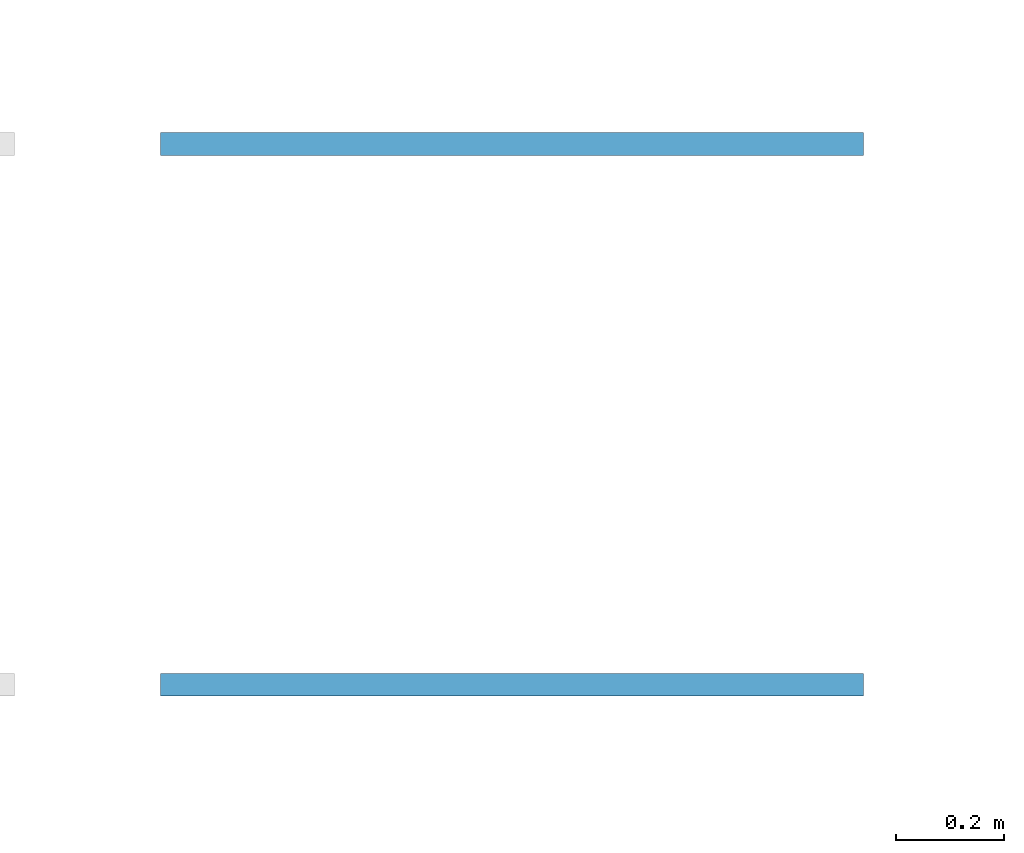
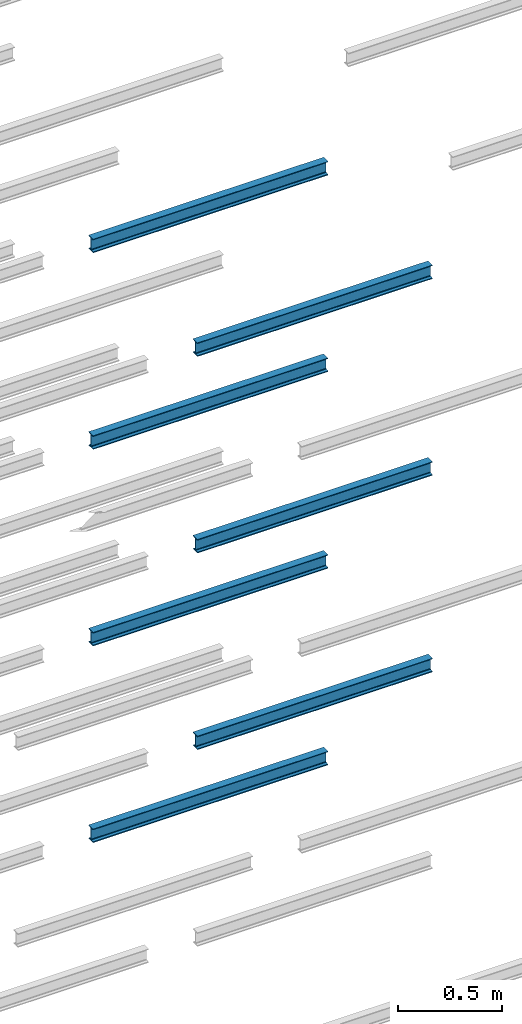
# One storey, part 97 of 290: 7 beams.
"""IFC2X3 building model written with IfcOpenShell, lengths in metres."""

from ifc_helpers import new_model, entity, si_unit, converted_unit, derived_unit, direction, frame, frame_2d, origin, place, context, subcontext, project, spatial, polyline, circle_curve, parameter, trimmed, segment, composite_curve, outline, extrude, material, type_object, element, save


model = new_model("IFC2X3")

# Units and contexts
model_context = context("Model", 3, precision=1e-05, world=origin(), true_north=direction((6.12303176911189e-17, 1.0)))
body_context = subcontext(model_context, "Body", "Model", "MODEL_VIEW")
ifc_project = project(units=[si_unit("LENGTHUNIT", "METRE"), si_unit("AREAUNIT", "SQUARE_METRE"), si_unit("VOLUMEUNIT", "CUBIC_METRE"), converted_unit("PLANEANGLEUNIT", "DEGREE", entity("IfcRatioMeasure", 0.0174532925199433), si_unit("PLANEANGLEUNIT", "RADIAN"), dimensions=[0, 0, 0, 0, 0, 0, 0]), si_unit("MASSUNIT", "GRAM", prefix="KILO"), derived_unit("MASSDENSITYUNIT", [(si_unit("MASSUNIT", "GRAM", prefix="KILO"), 1), (si_unit("LENGTHUNIT", "METRE"), -3)]), derived_unit("MOMENTOFINERTIAUNIT", [(si_unit("LENGTHUNIT", "METRE"), 4)]), si_unit("TIMEUNIT", "SECOND"), si_unit("FREQUENCYUNIT", "HERTZ"), si_unit("THERMODYNAMICTEMPERATUREUNIT", "DEGREE_CELSIUS"), derived_unit("THERMALTRANSMITTANCEUNIT", [(si_unit("MASSUNIT", "GRAM", prefix="KILO"), 1), (si_unit("THERMODYNAMICTEMPERATUREUNIT", "KELVIN"), -1), (si_unit("TIMEUNIT", "SECOND"), -3)]), derived_unit("VOLUMETRICFLOWRATEUNIT", [(si_unit("LENGTHUNIT", "METRE"), 3), (si_unit("TIMEUNIT", "SECOND"), -1)]), si_unit("ELECTRICCURRENTUNIT", "AMPERE"), si_unit("ELECTRICVOLTAGEUNIT", "VOLT"), si_unit("POWERUNIT", "WATT"), si_unit("FORCEUNIT", "NEWTON", prefix="KILO"), si_unit("ILLUMINANCEUNIT", "LUX"), si_unit("LUMINOUSFLUXUNIT", "LUMEN"), si_unit("LUMINOUSINTENSITYUNIT", "CANDELA"), derived_unit("USERDEFINED", [(si_unit("MASSUNIT", "GRAM", prefix="KILO"), -1), (si_unit("LENGTHUNIT", "METRE"), -2), (si_unit("TIMEUNIT", "SECOND"), 3), (si_unit("LUMINOUSFLUXUNIT", "LUMEN"), 1)]), derived_unit("LINEARVELOCITYUNIT", [(si_unit("LENGTHUNIT", "METRE"), 1), (si_unit("TIMEUNIT", "SECOND"), -1)]), si_unit("PRESSUREUNIT", "PASCAL"), derived_unit("USERDEFINED", [(si_unit("LENGTHUNIT", "METRE"), -2), (si_unit("MASSUNIT", "GRAM", prefix="KILO"), 1), (si_unit("TIMEUNIT", "SECOND"), -2)]), derived_unit("LINEARFORCEUNIT", [(si_unit("MASSUNIT", "GRAM", prefix="KILO"), 1), (si_unit("LENGTHUNIT", "METRE"), 1), (si_unit("TIMEUNIT", "SECOND"), -2), (si_unit("LENGTHUNIT", "METRE"), -1)]), derived_unit("PLANARFORCEUNIT", [(si_unit("MASSUNIT", "GRAM", prefix="KILO"), 1), (si_unit("LENGTHUNIT", "METRE"), 1), (si_unit("TIMEUNIT", "SECOND"), -2), (si_unit("LENGTHUNIT", "METRE"), -2)])], contexts=[model_context])

# Site, building, storey
site_placement = place(None, origin())
site = spatial("IfcSite", under=ifc_project, at=site_placement, Name="Default", CompositionType="ELEMENT")
building_placement = place(site_placement, origin())
building = spatial("IfcBuilding", under=site, at=building_placement, CompositionType="ELEMENT")
storey_placement = place(building_placement, frame((0.0, 0.0, 4.0)))
storey = spatial("IfcBuildingStorey", under=building, at=storey_placement, Name="01_OG", CompositionType="ELEMENT", Elevation=4.0)

# Beams
ifc_material = material(Name="Metall - Baustahl S235")
beam_type = type_object("IfcBeamType", Name="IPN Träger:IPN 80", PredefinedType="NOTDEFINED")
beam_1_placement = place(storey_placement, frame((-170.510111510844, 25.994588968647, -1.73)))
element("IfcBeam", 1, at=beam_1_placement, inside=storey, type_object=beam_type, material=ifc_material, Name="IPN Träger:IPN 80", ObjectType="IPN Träger:IPN 80", context=body_context, shape_type="SweptSolid", body=[
    extrude(outline(composite_curve([segment(polyline([(0.0375704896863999, -0.0209999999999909), (0.0399999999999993, -0.0209999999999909)]), True, "CONTINUOUS"), segment(polyline([(0.0399999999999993, -0.0209999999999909), (0.0399999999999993, 0.0210000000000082)]), True, "CONTINUOUS"), segment(polyline([(0.0399999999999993, 0.0210000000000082), (0.0375704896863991, 0.0210000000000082)]), True, "CONTINUOUS"), segment(trimmed(circle_curve(frame_2d((0.0375704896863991, 0.0187000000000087), x_axis=(0.0, 1.0)), 0.00230000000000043), [parameter(0.0)], [parameter(82.0299999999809)], True, "PARAMETER"), True, "CONTINUOUS"), segment(polyline([(0.0352927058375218, 0.0190189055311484), (0.0333732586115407, 0.00530924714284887)]), True, "CONTINUOUS"), segment(trimmed(circle_curve(frame_2d((0.0295109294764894, 0.00585000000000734), x_axis=(0.990340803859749, -0.138654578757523)), 0.00389999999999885), [parameter(277.969999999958)], [parameter(0.0)], True, "PARAMETER"), False, "CONTINUOUS"), segment(polyline([(0.0295109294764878, 0.00195000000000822), (-0.0295109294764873, 0.00195000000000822)]), True, "CONTINUOUS"), segment(trimmed(circle_curve(frame_2d((-0.0295109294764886, 0.00585000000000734), x_axis=(0.0, -1.0)), 0.00389999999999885), [parameter(277.969999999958)], [parameter(0.0)], True, "PARAMETER"), False, "CONTINUOUS"), segment(polyline([(-0.0333732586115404, 0.0053092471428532), (-0.0352927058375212, 0.0190189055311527)]), True, "CONTINUOUS"), segment(trimmed(circle_curve(frame_2d((-0.0375704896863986, 0.0187000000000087), x_axis=(0.990340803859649, 0.138654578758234)), 0.00230000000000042), [parameter(0.0)], [parameter(82.0299999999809)], True, "PARAMETER"), True, "CONTINUOUS"), segment(polyline([(-0.0375704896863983, 0.0210000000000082), (-0.0400000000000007, 0.0210000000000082)]), True, "CONTINUOUS"), segment(polyline([(-0.0400000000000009, 0.0210000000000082), (-0.0400000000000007, -0.0209999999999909)]), True, "CONTINUOUS"), segment(polyline([(-0.0400000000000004, -0.0209999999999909), (-0.0375704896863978, -0.0209999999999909)]), True, "CONTINUOUS"), segment(trimmed(circle_curve(frame_2d((-0.0375704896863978, -0.0186999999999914), x_axis=(0.0, -1.0)), 0.00230000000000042), [parameter(0.0)], [parameter(82.0299999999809)], True, "PARAMETER"), True, "CONTINUOUS"), segment(polyline([(-0.0352927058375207, -0.019018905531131), (-0.0333732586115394, -0.00530924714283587)]), True, "CONTINUOUS"), segment(trimmed(circle_curve(frame_2d((-0.0295109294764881, -0.00584999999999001), x_axis=(-0.990340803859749, 0.138654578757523)), 0.00389999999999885), [parameter(277.969999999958)], [parameter(0.0)], True, "PARAMETER"), False, "CONTINUOUS"), segment(polyline([(-0.0295109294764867, -0.00194999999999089), (0.0295109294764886, -0.00194999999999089)]), True, "CONTINUOUS"), segment(trimmed(circle_curve(frame_2d((0.0295109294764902, -0.00584999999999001), x_axis=(0.0, 1.0)), 0.0038999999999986), [parameter(277.969999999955)], [parameter(0.0)], True, "PARAMETER"), False, "CONTINUOUS"), segment(polyline([(0.0333732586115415, -0.00530924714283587), (0.0352927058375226, -0.0190189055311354)]), True, "CONTINUOUS"), segment(trimmed(circle_curve(frame_2d((0.0375704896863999, -0.0186999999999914), x_axis=(-0.990340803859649, -0.138654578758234)), 0.00230000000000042), [parameter(0.0)], [parameter(82.0299999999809)], True, "PARAMETER"), True, "CONTINUOUS")], self_intersect=False)), frame((0.00010000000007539, 0.0209999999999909, -0.0400000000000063), z_axis=(1.0, 0.0, 0.0), x_axis=(0.0, 0.0, -1.0)), (0.0, 0.0, 1.0), 1.29990000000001),
])
beam_2_placement = place(storey_placement, frame((-170.510111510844, 25.994588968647, -0.579999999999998)))
element("IfcBeam", 2, at=beam_2_placement, inside=storey, type_object=beam_type, material=ifc_material, Name="IPN Träger:IPN 80", ObjectType="IPN Träger:IPN 80", context=body_context, shape_type="SweptSolid", body=[
    extrude(outline(composite_curve([segment(polyline([(0.0375704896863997, -0.0209999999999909), (0.039999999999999, -0.0209999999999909)]), True, "CONTINUOUS"), segment(polyline([(0.039999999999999, -0.0209999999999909), (0.039999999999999, 0.0210000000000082)]), True, "CONTINUOUS"), segment(polyline([(0.039999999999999, 0.0210000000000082), (0.0375704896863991, 0.0210000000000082)]), True, "CONTINUOUS"), segment(trimmed(circle_curve(frame_2d((0.0375704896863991, 0.0187000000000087), x_axis=(0.0, 1.0)), 0.00230000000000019), [parameter(0.0)], [parameter(82.02999999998)], True, "PARAMETER"), True, "CONTINUOUS"), segment(polyline([(0.0352927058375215, 0.0190189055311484), (0.0333732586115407, 0.00530924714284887)]), True, "CONTINUOUS"), segment(trimmed(circle_curve(frame_2d((0.0295109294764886, 0.00585000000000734), x_axis=(0.990340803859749, -0.138654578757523)), 0.00389999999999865), [parameter(277.969999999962)], [parameter(0.0)], True, "PARAMETER"), False, "CONTINUOUS"), segment(polyline([(0.0295109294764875, 0.00195000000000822), (-0.0295109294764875, 0.00195000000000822)]), True, "CONTINUOUS"), segment(trimmed(circle_curve(frame_2d((-0.0295109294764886, 0.00585000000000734), x_axis=(0.0, -1.0)), 0.00389999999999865), [parameter(277.969999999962)], [parameter(0.0)], True, "PARAMETER"), False, "CONTINUOUS"), segment(polyline([(-0.0333732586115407, 0.0053092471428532), (-0.0352927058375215, 0.0190189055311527)]), True, "CONTINUOUS"), segment(trimmed(circle_curve(frame_2d((-0.0375704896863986, 0.0187000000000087), x_axis=(0.990340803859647, 0.138654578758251)), 0.00230000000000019), [parameter(0.0)], [parameter(82.02999999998)], True, "PARAMETER"), True, "CONTINUOUS"), segment(polyline([(-0.0375704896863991, 0.0210000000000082), (-0.0400000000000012, 0.0210000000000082)]), True, "CONTINUOUS"), segment(polyline([(-0.0400000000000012, 0.0210000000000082), (-0.0400000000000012, -0.0209999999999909)]), True, "CONTINUOUS"), segment(polyline([(-0.0400000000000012, -0.0209999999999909), (-0.037570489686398, -0.0209999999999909)]), True, "CONTINUOUS"), segment(trimmed(circle_curve(frame_2d((-0.037570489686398, -0.0186999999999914), x_axis=(0.0, -1.0)), 0.00230000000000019), [parameter(0.0)], [parameter(82.02999999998)], True, "PARAMETER"), True, "CONTINUOUS"), segment(polyline([(-0.035292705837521, -0.019018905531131), (-0.0333732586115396, -0.00530924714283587)]), True, "CONTINUOUS"), segment(trimmed(circle_curve(frame_2d((-0.0295109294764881, -0.00584999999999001), x_axis=(-0.990340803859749, 0.138654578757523)), 0.00389999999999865), [parameter(277.969999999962)], [parameter(0.0)], True, "PARAMETER"), False, "CONTINUOUS"), segment(polyline([(-0.029510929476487, -0.00194999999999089), (0.0295109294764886, -0.00194999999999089)]), True, "CONTINUOUS"), segment(trimmed(circle_curve(frame_2d((0.0295109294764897, -0.00584999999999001), x_axis=(0.0, 1.0)), 0.00389999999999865), [parameter(277.969999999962)], [parameter(0.0)], True, "PARAMETER"), False, "CONTINUOUS"), segment(polyline([(0.0333732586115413, -0.00530924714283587), (0.0352927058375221, -0.0190189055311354)]), True, "CONTINUOUS"), segment(trimmed(circle_curve(frame_2d((0.0375704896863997, -0.0186999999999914), x_axis=(-0.990340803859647, -0.138654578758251)), 0.00230000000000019), [parameter(0.0)], [parameter(82.02999999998)], True, "PARAMETER"), True, "CONTINUOUS")], self_intersect=False)), frame((0.000100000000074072, 0.0209999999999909, -0.0400000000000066), z_axis=(1.0, 0.0, 0.0), x_axis=(0.0, 0.0, -1.0)), (0.0, 0.0, 1.0), 1.29990000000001),
])
beam_3_placement = place(storey_placement, frame((-170.510111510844, 25.994588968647, 0.570000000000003)))
element("IfcBeam", 3, at=beam_3_placement, inside=storey, type_object=beam_type, material=ifc_material, Name="IPN Träger:IPN 80", ObjectType="IPN Träger:IPN 80", context=body_context, shape_type="SweptSolid", body=[
    extrude(outline(composite_curve([segment(polyline([(0.0375704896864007, -0.0209999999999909), (0.0400000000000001, -0.0209999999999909)]), True, "CONTINUOUS"), segment(polyline([(0.0400000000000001, -0.0209999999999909), (0.0400000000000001, 0.0210000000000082)]), True, "CONTINUOUS"), segment(polyline([(0.0400000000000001, 0.0210000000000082), (0.0375704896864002, 0.0210000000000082)]), True, "CONTINUOUS"), segment(trimmed(circle_curve(frame_2d((0.0375704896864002, 0.0187000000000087), x_axis=(0.0, 1.0)), 0.00230000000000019), [parameter(0.0)], [parameter(82.02999999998)], True, "PARAMETER"), True, "CONTINUOUS"), segment(polyline([(0.0352927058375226, 0.0190189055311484), (0.0333732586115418, 0.00530924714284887)]), True, "CONTINUOUS"), segment(trimmed(circle_curve(frame_2d((0.0295109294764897, 0.00585000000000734), x_axis=(0.990340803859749, -0.138654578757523)), 0.00389999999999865), [parameter(277.969999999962)], [parameter(0.0)], True, "PARAMETER"), False, "CONTINUOUS"), segment(polyline([(0.0295109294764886, 0.00195000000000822), (-0.0295109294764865, 0.00195000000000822)]), True, "CONTINUOUS"), segment(trimmed(circle_curve(frame_2d((-0.0295109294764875, 0.00585000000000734), x_axis=(0.0, -1.0)), 0.00389999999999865), [parameter(277.969999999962)], [parameter(0.0)], True, "PARAMETER"), False, "CONTINUOUS"), segment(polyline([(-0.0333732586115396, 0.0053092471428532), (-0.0352927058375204, 0.0190189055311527)]), True, "CONTINUOUS"), segment(trimmed(circle_curve(frame_2d((-0.0375704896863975, 0.0187000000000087), x_axis=(0.990340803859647, 0.138654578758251)), 0.00230000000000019), [parameter(0.0)], [parameter(82.02999999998)], True, "PARAMETER"), True, "CONTINUOUS"), segment(polyline([(-0.037570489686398, 0.0210000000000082), (-0.0400000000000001, 0.0210000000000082)]), True, "CONTINUOUS"), segment(polyline([(-0.0400000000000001, 0.0210000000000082), (-0.0400000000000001, -0.0209999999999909)]), True, "CONTINUOUS"), segment(polyline([(-0.0400000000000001, -0.0209999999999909), (-0.0375704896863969, -0.0209999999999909)]), True, "CONTINUOUS"), segment(trimmed(circle_curve(frame_2d((-0.0375704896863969, -0.0186999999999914), x_axis=(0.0, -1.0)), 0.00230000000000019), [parameter(0.0)], [parameter(82.02999999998)], True, "PARAMETER"), True, "CONTINUOUS"), segment(polyline([(-0.0352927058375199, -0.019018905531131), (-0.0333732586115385, -0.00530924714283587)]), True, "CONTINUOUS"), segment(trimmed(circle_curve(frame_2d((-0.029510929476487, -0.00584999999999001), x_axis=(-0.990340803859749, 0.138654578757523)), 0.00389999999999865), [parameter(277.969999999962)], [parameter(0.0)], True, "PARAMETER"), False, "CONTINUOUS"), segment(polyline([(-0.0295109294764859, -0.00194999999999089), (0.0295109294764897, -0.00194999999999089)]), True, "CONTINUOUS"), segment(trimmed(circle_curve(frame_2d((0.0295109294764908, -0.00584999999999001), x_axis=(0.0, 1.0)), 0.00389999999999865), [parameter(277.969999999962)], [parameter(0.0)], True, "PARAMETER"), False, "CONTINUOUS"), segment(polyline([(0.0333732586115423, -0.00530924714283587), (0.0352927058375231, -0.0190189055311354)]), True, "CONTINUOUS"), segment(trimmed(circle_curve(frame_2d((0.0375704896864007, -0.0186999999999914), x_axis=(-0.990340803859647, -0.138654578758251)), 0.00230000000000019), [parameter(0.0)], [parameter(82.02999999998)], True, "PARAMETER"), True, "CONTINUOUS")], self_intersect=False)), frame((0.000100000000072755, 0.0209999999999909, -0.0400000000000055), z_axis=(1.0, 0.0, 0.0), x_axis=(0.0, 0.0, -1.0)), (0.0, 0.0, 1.0), 1.29990000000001),
])
beam_4_placement = place(storey_placement, frame((-170.510111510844, 25.994588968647, 1.72)))
element("IfcBeam", 4, at=beam_4_placement, inside=storey, type_object=beam_type, material=ifc_material, Name="IPN Träger:IPN 80", ObjectType="IPN Träger:IPN 80", context=body_context, shape_type="SweptSolid", body=[
    extrude(outline(composite_curve([segment(polyline([(0.0375704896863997, -0.0209999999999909), (0.0399999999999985, -0.0209999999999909)]), True, "CONTINUOUS"), segment(polyline([(0.0399999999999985, -0.0209999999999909), (0.0399999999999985, 0.0210000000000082)]), True, "CONTINUOUS"), segment(polyline([(0.0399999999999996, 0.0210000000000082), (0.0375704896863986, 0.0210000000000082)]), True, "CONTINUOUS"), segment(trimmed(circle_curve(frame_2d((0.0375704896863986, 0.0187000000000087), x_axis=(0.0, 1.0)), 0.00230000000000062), [parameter(0.0)], [parameter(82.0299999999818)], True, "PARAMETER"), True, "CONTINUOUS"), segment(polyline([(0.0352927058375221, 0.0190189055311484), (0.0333732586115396, 0.00530924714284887)]), True, "CONTINUOUS"), segment(trimmed(circle_curve(frame_2d((0.0295109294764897, 0.00585000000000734), x_axis=(0.990340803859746, -0.138654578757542)), 0.00389999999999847), [parameter(277.969999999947)], [parameter(0.0)], True, "PARAMETER"), False, "CONTINUOUS"), segment(polyline([(0.0295109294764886, 0.00195000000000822), (-0.0295109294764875, 0.00195000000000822)]), True, "CONTINUOUS"), segment(trimmed(circle_curve(frame_2d((-0.0295109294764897, 0.00585000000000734), x_axis=(0.0, -1.0)), 0.00389999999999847), [parameter(277.969999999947)], [parameter(0.0)], True, "PARAMETER"), False, "CONTINUOUS"), segment(polyline([(-0.0333732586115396, 0.0053092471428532), (-0.0352927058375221, 0.0190189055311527)]), True, "CONTINUOUS"), segment(trimmed(circle_curve(frame_2d((-0.0375704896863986, 0.0187000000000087), x_axis=(0.990340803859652, 0.138654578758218)), 0.00230000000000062), [parameter(0.0)], [parameter(82.0299999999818)], True, "PARAMETER"), True, "CONTINUOUS"), segment(polyline([(-0.0375704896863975, 0.0210000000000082), (-0.0400000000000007, 0.0210000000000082)]), True, "CONTINUOUS"), segment(polyline([(-0.0400000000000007, 0.0210000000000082), (-0.0400000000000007, -0.0209999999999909)]), True, "CONTINUOUS"), segment(polyline([(-0.0400000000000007, -0.0209999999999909), (-0.0375704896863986, -0.0209999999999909)]), True, "CONTINUOUS"), segment(trimmed(circle_curve(frame_2d((-0.0375704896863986, -0.0186999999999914), x_axis=(0.0, -1.0)), 0.00230000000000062), [parameter(0.0)], [parameter(82.0299999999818)], True, "PARAMETER"), True, "CONTINUOUS"), segment(polyline([(-0.035292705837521, -0.019018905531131), (-0.0333732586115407, -0.00530924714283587)]), True, "CONTINUOUS"), segment(trimmed(circle_curve(frame_2d((-0.0295109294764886, -0.00584999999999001), x_axis=(-0.990340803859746, 0.138654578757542)), 0.00389999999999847), [parameter(277.969999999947)], [parameter(0.0)], True, "PARAMETER"), False, "CONTINUOUS"), segment(polyline([(-0.0295109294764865, -0.00194999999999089), (0.0295109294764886, -0.00194999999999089)]), True, "CONTINUOUS"), segment(trimmed(circle_curve(frame_2d((0.0295109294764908, -0.00584999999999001), x_axis=(0.0, 1.0)), 0.00389999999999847), [parameter(277.969999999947)], [parameter(0.0)], True, "PARAMETER"), False, "CONTINUOUS"), segment(polyline([(0.0333732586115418, -0.00530924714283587), (0.0352927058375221, -0.0190189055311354)]), True, "CONTINUOUS"), segment(trimmed(circle_curve(frame_2d((0.0375704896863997, -0.0186999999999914), x_axis=(-0.990340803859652, -0.138654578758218)), 0.00230000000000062), [parameter(0.0)], [parameter(82.0299999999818)], True, "PARAMETER"), True, "CONTINUOUS")], self_intersect=False)), frame((0.000100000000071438, 0.0209999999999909, -0.040000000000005), z_axis=(1.0, 0.0, 0.0), x_axis=(0.0, 0.0, -1.0)), (0.0, 0.0, 1.0), 1.29990000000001),
])
beam_5_placement = place(storey_placement, frame((-170.510111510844, 24.994588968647, -0.579999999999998)))
element("IfcBeam", 5, at=beam_5_placement, inside=storey, type_object=beam_type, material=ifc_material, Name="IPN Träger:IPN 80", ObjectType="IPN Träger:IPN 80", context=body_context, shape_type="SweptSolid", body=[
    extrude(outline(composite_curve([segment(polyline([(0.0375704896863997, -0.0209999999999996), (0.039999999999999, -0.0209999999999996)]), True, "CONTINUOUS"), segment(polyline([(0.039999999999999, -0.0209999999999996), (0.039999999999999, 0.0209999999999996)]), True, "CONTINUOUS"), segment(polyline([(0.039999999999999, 0.0209999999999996), (0.0375704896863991, 0.0209999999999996)]), True, "CONTINUOUS"), segment(trimmed(circle_curve(frame_2d((0.0375704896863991, 0.0187000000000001), x_axis=(0.0, 1.0)), 0.00230000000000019), [parameter(0.0)], [parameter(82.02999999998)], True, "PARAMETER"), True, "CONTINUOUS"), segment(polyline([(0.0352927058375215, 0.0190189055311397), (0.0333732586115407, 0.00530924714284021)]), True, "CONTINUOUS"), segment(trimmed(circle_curve(frame_2d((0.0295109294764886, 0.00584999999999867), x_axis=(0.990340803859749, -0.138654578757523)), 0.00389999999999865), [parameter(277.969999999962)], [parameter(0.0)], True, "PARAMETER"), False, "CONTINUOUS"), segment(polyline([(0.0295109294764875, 0.00194999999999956), (-0.0295109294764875, 0.00194999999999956)]), True, "CONTINUOUS"), segment(trimmed(circle_curve(frame_2d((-0.0295109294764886, 0.00584999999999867), x_axis=(0.0, -1.0)), 0.00389999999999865), [parameter(277.969999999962)], [parameter(0.0)], True, "PARAMETER"), False, "CONTINUOUS"), segment(polyline([(-0.0333732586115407, 0.00530924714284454), (-0.0352927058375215, 0.019018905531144)]), True, "CONTINUOUS"), segment(trimmed(circle_curve(frame_2d((-0.0375704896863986, 0.0187000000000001), x_axis=(0.990340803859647, 0.138654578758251)), 0.00230000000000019), [parameter(0.0)], [parameter(82.02999999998)], True, "PARAMETER"), True, "CONTINUOUS"), segment(polyline([(-0.0375704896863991, 0.0209999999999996), (-0.0400000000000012, 0.0209999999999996)]), True, "CONTINUOUS"), segment(polyline([(-0.0400000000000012, 0.0209999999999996), (-0.0400000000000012, -0.0209999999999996)]), True, "CONTINUOUS"), segment(polyline([(-0.0400000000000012, -0.0209999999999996), (-0.037570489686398, -0.0209999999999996)]), True, "CONTINUOUS"), segment(trimmed(circle_curve(frame_2d((-0.037570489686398, -0.0187000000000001), x_axis=(0.0, -1.0)), 0.00230000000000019), [parameter(0.0)], [parameter(82.02999999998)], True, "PARAMETER"), True, "CONTINUOUS"), segment(polyline([(-0.035292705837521, -0.0190189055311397), (-0.0333732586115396, -0.00530924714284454)]), True, "CONTINUOUS"), segment(trimmed(circle_curve(frame_2d((-0.0295109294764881, -0.00584999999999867), x_axis=(-0.990340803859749, 0.138654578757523)), 0.00389999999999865), [parameter(277.969999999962)], [parameter(0.0)], True, "PARAMETER"), False, "CONTINUOUS"), segment(polyline([(-0.029510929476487, -0.00194999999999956), (0.0295109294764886, -0.00194999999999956)]), True, "CONTINUOUS"), segment(trimmed(circle_curve(frame_2d((0.0295109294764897, -0.00584999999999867), x_axis=(0.0, 1.0)), 0.00389999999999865), [parameter(277.969999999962)], [parameter(0.0)], True, "PARAMETER"), False, "CONTINUOUS"), segment(polyline([(0.0333732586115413, -0.00530924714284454), (0.0352927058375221, -0.019018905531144)]), True, "CONTINUOUS"), segment(trimmed(circle_curve(frame_2d((0.0375704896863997, -0.0187000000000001), x_axis=(-0.990340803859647, -0.138654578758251)), 0.00230000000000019), [parameter(0.0)], [parameter(82.02999999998)], True, "PARAMETER"), True, "CONTINUOUS")], self_intersect=False)), frame((0.000100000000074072, 0.0209999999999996, -0.0400000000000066), z_axis=(1.0, 0.0, 0.0), x_axis=(0.0, 0.0, -1.0)), (0.0, 0.0, 1.0), 1.29990000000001),
])
beam_6_placement = place(storey_placement, frame((-170.510111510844, 24.994588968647, 0.570000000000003)))
element("IfcBeam", 6, at=beam_6_placement, inside=storey, type_object=beam_type, material=ifc_material, Name="IPN Träger:IPN 80", ObjectType="IPN Träger:IPN 80", context=body_context, shape_type="SweptSolid", body=[
    extrude(outline(composite_curve([segment(polyline([(0.0375704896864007, -0.0209999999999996), (0.0400000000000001, -0.0209999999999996)]), True, "CONTINUOUS"), segment(polyline([(0.0400000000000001, -0.0209999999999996), (0.0400000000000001, 0.0209999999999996)]), True, "CONTINUOUS"), segment(polyline([(0.0400000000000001, 0.0209999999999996), (0.0375704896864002, 0.0209999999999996)]), True, "CONTINUOUS"), segment(trimmed(circle_curve(frame_2d((0.0375704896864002, 0.0187000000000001), x_axis=(0.0, 1.0)), 0.00230000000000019), [parameter(0.0)], [parameter(82.02999999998)], True, "PARAMETER"), True, "CONTINUOUS"), segment(polyline([(0.0352927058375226, 0.0190189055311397), (0.0333732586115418, 0.00530924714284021)]), True, "CONTINUOUS"), segment(trimmed(circle_curve(frame_2d((0.0295109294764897, 0.00584999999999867), x_axis=(0.990340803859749, -0.138654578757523)), 0.00389999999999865), [parameter(277.969999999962)], [parameter(0.0)], True, "PARAMETER"), False, "CONTINUOUS"), segment(polyline([(0.0295109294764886, 0.00194999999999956), (-0.0295109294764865, 0.00194999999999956)]), True, "CONTINUOUS"), segment(trimmed(circle_curve(frame_2d((-0.0295109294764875, 0.00584999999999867), x_axis=(0.0, -1.0)), 0.00389999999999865), [parameter(277.969999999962)], [parameter(0.0)], True, "PARAMETER"), False, "CONTINUOUS"), segment(polyline([(-0.0333732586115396, 0.00530924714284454), (-0.0352927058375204, 0.019018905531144)]), True, "CONTINUOUS"), segment(trimmed(circle_curve(frame_2d((-0.0375704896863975, 0.0187000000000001), x_axis=(0.990340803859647, 0.138654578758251)), 0.00230000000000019), [parameter(0.0)], [parameter(82.02999999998)], True, "PARAMETER"), True, "CONTINUOUS"), segment(polyline([(-0.037570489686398, 0.0209999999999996), (-0.0400000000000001, 0.0209999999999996)]), True, "CONTINUOUS"), segment(polyline([(-0.0400000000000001, 0.0209999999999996), (-0.0400000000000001, -0.0209999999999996)]), True, "CONTINUOUS"), segment(polyline([(-0.0400000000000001, -0.0209999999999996), (-0.0375704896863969, -0.0209999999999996)]), True, "CONTINUOUS"), segment(trimmed(circle_curve(frame_2d((-0.0375704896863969, -0.0187000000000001), x_axis=(0.0, -1.0)), 0.00230000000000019), [parameter(0.0)], [parameter(82.02999999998)], True, "PARAMETER"), True, "CONTINUOUS"), segment(polyline([(-0.0352927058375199, -0.0190189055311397), (-0.0333732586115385, -0.00530924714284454)]), True, "CONTINUOUS"), segment(trimmed(circle_curve(frame_2d((-0.029510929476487, -0.00584999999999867), x_axis=(-0.990340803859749, 0.138654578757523)), 0.00389999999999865), [parameter(277.969999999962)], [parameter(0.0)], True, "PARAMETER"), False, "CONTINUOUS"), segment(polyline([(-0.0295109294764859, -0.00194999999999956), (0.0295109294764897, -0.00194999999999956)]), True, "CONTINUOUS"), segment(trimmed(circle_curve(frame_2d((0.0295109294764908, -0.00584999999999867), x_axis=(0.0, 1.0)), 0.00389999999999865), [parameter(277.969999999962)], [parameter(0.0)], True, "PARAMETER"), False, "CONTINUOUS"), segment(polyline([(0.0333732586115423, -0.00530924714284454), (0.0352927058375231, -0.019018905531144)]), True, "CONTINUOUS"), segment(trimmed(circle_curve(frame_2d((0.0375704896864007, -0.0187000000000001), x_axis=(-0.990340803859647, -0.138654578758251)), 0.00230000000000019), [parameter(0.0)], [parameter(82.02999999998)], True, "PARAMETER"), True, "CONTINUOUS")], self_intersect=False)), frame((0.000100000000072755, 0.0209999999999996, -0.0400000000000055), z_axis=(1.0, 0.0, 0.0), x_axis=(0.0, 0.0, -1.0)), (0.0, 0.0, 1.0), 1.29990000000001),
])
beam_7_placement = place(storey_placement, frame((-170.510111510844, 24.994588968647, 1.72)))
element("IfcBeam", 7, at=beam_7_placement, inside=storey, type_object=beam_type, material=ifc_material, Name="IPN Träger:IPN 80", ObjectType="IPN Träger:IPN 80", context=body_context, shape_type="SweptSolid", body=[
    extrude(outline(composite_curve([segment(polyline([(0.0375704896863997, -0.0209999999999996), (0.0399999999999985, -0.0209999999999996)]), True, "CONTINUOUS"), segment(polyline([(0.0399999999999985, -0.0209999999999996), (0.0399999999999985, 0.0209999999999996)]), True, "CONTINUOUS"), segment(polyline([(0.0399999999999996, 0.0209999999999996), (0.0375704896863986, 0.0209999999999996)]), True, "CONTINUOUS"), segment(trimmed(circle_curve(frame_2d((0.0375704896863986, 0.0187000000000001), x_axis=(0.0, 1.0)), 0.00230000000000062), [parameter(0.0)], [parameter(82.0299999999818)], True, "PARAMETER"), True, "CONTINUOUS"), segment(polyline([(0.0352927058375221, 0.0190189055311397), (0.0333732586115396, 0.00530924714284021)]), True, "CONTINUOUS"), segment(trimmed(circle_curve(frame_2d((0.0295109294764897, 0.00584999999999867), x_axis=(0.990340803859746, -0.138654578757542)), 0.00389999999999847), [parameter(277.969999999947)], [parameter(0.0)], True, "PARAMETER"), False, "CONTINUOUS"), segment(polyline([(0.0295109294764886, 0.00194999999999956), (-0.0295109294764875, 0.00194999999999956)]), True, "CONTINUOUS"), segment(trimmed(circle_curve(frame_2d((-0.0295109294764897, 0.00584999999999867), x_axis=(0.0, -1.0)), 0.00389999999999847), [parameter(277.969999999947)], [parameter(0.0)], True, "PARAMETER"), False, "CONTINUOUS"), segment(polyline([(-0.0333732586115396, 0.00530924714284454), (-0.0352927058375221, 0.019018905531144)]), True, "CONTINUOUS"), segment(trimmed(circle_curve(frame_2d((-0.0375704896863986, 0.0187000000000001), x_axis=(0.990340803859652, 0.138654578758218)), 0.00230000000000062), [parameter(0.0)], [parameter(82.0299999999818)], True, "PARAMETER"), True, "CONTINUOUS"), segment(polyline([(-0.0375704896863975, 0.0209999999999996), (-0.0400000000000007, 0.0209999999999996)]), True, "CONTINUOUS"), segment(polyline([(-0.0400000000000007, 0.0209999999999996), (-0.0400000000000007, -0.0209999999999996)]), True, "CONTINUOUS"), segment(polyline([(-0.0400000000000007, -0.0209999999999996), (-0.0375704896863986, -0.0209999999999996)]), True, "CONTINUOUS"), segment(trimmed(circle_curve(frame_2d((-0.0375704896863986, -0.0187000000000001), x_axis=(0.0, -1.0)), 0.00230000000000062), [parameter(0.0)], [parameter(82.0299999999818)], True, "PARAMETER"), True, "CONTINUOUS"), segment(polyline([(-0.035292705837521, -0.0190189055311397), (-0.0333732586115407, -0.00530924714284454)]), True, "CONTINUOUS"), segment(trimmed(circle_curve(frame_2d((-0.0295109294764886, -0.00584999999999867), x_axis=(-0.990340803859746, 0.138654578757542)), 0.00389999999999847), [parameter(277.969999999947)], [parameter(0.0)], True, "PARAMETER"), False, "CONTINUOUS"), segment(polyline([(-0.0295109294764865, -0.00194999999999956), (0.0295109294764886, -0.00194999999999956)]), True, "CONTINUOUS"), segment(trimmed(circle_curve(frame_2d((0.0295109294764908, -0.00584999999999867), x_axis=(0.0, 1.0)), 0.00389999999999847), [parameter(277.969999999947)], [parameter(0.0)], True, "PARAMETER"), False, "CONTINUOUS"), segment(polyline([(0.0333732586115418, -0.00530924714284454), (0.0352927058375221, -0.019018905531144)]), True, "CONTINUOUS"), segment(trimmed(circle_curve(frame_2d((0.0375704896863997, -0.0187000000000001), x_axis=(-0.990340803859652, -0.138654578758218)), 0.00230000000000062), [parameter(0.0)], [parameter(82.0299999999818)], True, "PARAMETER"), True, "CONTINUOUS")], self_intersect=False)), frame((0.000100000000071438, 0.0209999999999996, -0.040000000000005), z_axis=(1.0, 0.0, 0.0), x_axis=(0.0, 0.0, -1.0)), (0.0, 0.0, 1.0), 1.29990000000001),
])

save(model, "model.ifc")
